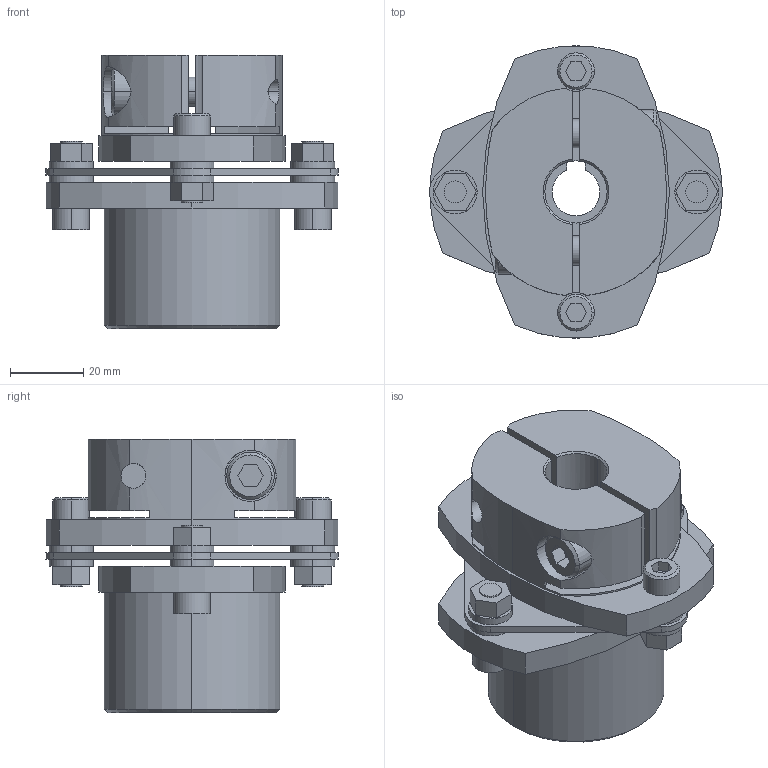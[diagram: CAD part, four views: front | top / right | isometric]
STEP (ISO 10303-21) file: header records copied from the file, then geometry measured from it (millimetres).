
FILE_DESCRIPTION((''),'2;1');
FILE_NAME('LCS-80M-16L亊17B.stp','2015-10-27T19:14:00',(''),(''),'AutoCAD STEP 2000i','AutoCAD 2000i',', , ');
FILE_SCHEMA(('CONFIG_CONTROL_DESIGN'));
Length unit declared in the file: millimetre
Products named in the file (6): LCS-80M-16L×15B; 忣兜1; LC80M-L016; LC80-B015-1; LC80-B015; LCS80-ITA
Assembly tree (5 placements, depth 2):
  LCS-80M-16L×15B
    忣兜1
    LC80M-L016
    LC80-B015-1
    LC80-B015
    LCS80-ITA
Bounding box: 80 x 79.95 x 74.75 mm (x, y, z)
Volume: 146057.1 mm3; surface area: 42103 mm2
Topology: 1 solids, 1 shells, 230 faces, 580 edges, 382 vertices
Faces by surface type: plane 115, cylinder 96, cone 19
Entity records: 7413 total; most frequent: CARTESIAN_POINT 1514, DIRECTION 1252, ORIENTED_EDGE 1160, EDGE_CURVE 580, AXIS2_PLACEMENT_3D 458, VERTEX_POINT 382, VECTOR 336, LINE 336
